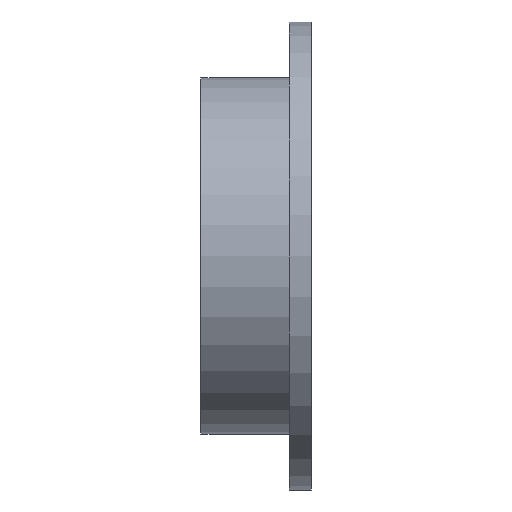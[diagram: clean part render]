
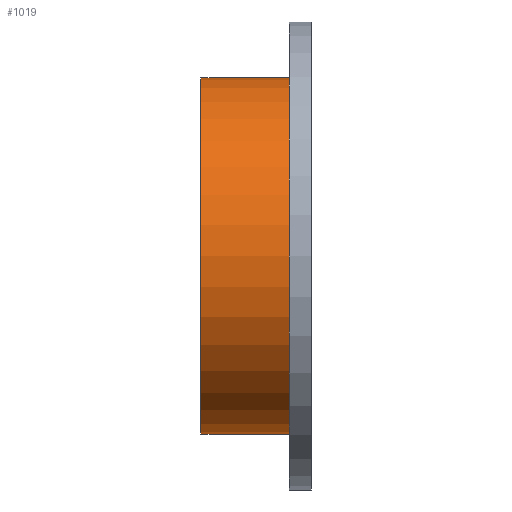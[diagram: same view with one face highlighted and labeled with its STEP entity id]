
A CAD part, left-side view. The second image highlights one B-rep face of the part: STEP entity #1019.
In plain terms, the highlighted cylindrical face has radius 161.95 mm (diameter 323.9 mm), a partial arc.
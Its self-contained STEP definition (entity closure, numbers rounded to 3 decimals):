
#25 = AXIS2_PLACEMENT_3D ( 'NONE', #185, #1224, #173 ) ;
#73 = DIRECTION ( 'NONE',  ( 0., -1., 0. ) ) ;
#96 = DIRECTION ( 'NONE',  ( 0., -1., 0. ) ) ;
#173 = DIRECTION ( 'NONE',  ( 0., 0., -1. ) ) ;
#185 = CARTESIAN_POINT ( 'NONE',  ( 0., 0., 0. ) ) ;
#210 = AXIS2_PLACEMENT_3D ( 'NONE', #1139, #630, #1044 ) ;
#261 = FACE_OUTER_BOUND ( 'NONE', #958, .T. ) ;
#276 = ORIENTED_EDGE ( 'NONE', *, *, #745, .T. ) ;
#307 = EDGE_CURVE ( 'NONE', #975, #1230, #638, .T. ) ;
#456 = CARTESIAN_POINT ( 'NONE',  ( 0., 14., 161.95 ) ) ;
#509 = CARTESIAN_POINT ( 'NONE',  ( 0., 100., 161.95 ) ) ;
#592 = CYLINDRICAL_SURFACE ( 'NONE', #25, 161.95 ) ;
#630 = DIRECTION ( 'NONE',  ( 0., -1., 0. ) ) ;
#638 = CIRCLE ( 'NONE', #210, 161.95 ) ;
#644 = DIRECTION ( 'NONE',  ( 0., -1., 0. ) ) ;
#655 = CARTESIAN_POINT ( 'NONE',  ( 0., 100., -161.95 ) ) ;
#745 = EDGE_CURVE ( 'NONE', #1230, #1114, #1161, .T. ) ;
#825 = CIRCLE ( 'NONE', #1018, 161.95 ) ;
#869 = EDGE_CURVE ( 'NONE', #975, #910, #1275, .T. ) ;
#910 = VERTEX_POINT ( 'NONE', #456 ) ;
#942 = ORIENTED_EDGE ( 'NONE', *, *, #869, .F. ) ;
#958 = EDGE_LOOP ( 'NONE', ( #942, #1168, #276, #1216 ) ) ;
#975 = VERTEX_POINT ( 'NONE', #509 ) ;
#1010 = EDGE_CURVE ( 'NONE', #910, #1114, #825, .T. ) ;
#1011 = CARTESIAN_POINT ( 'NONE',  ( 0., 14., 0. ) ) ;
#1018 = AXIS2_PLACEMENT_3D ( 'NONE', #1011, #73, #1334 ) ;
#1019 = ADVANCED_FACE ( 'NONE', ( #261 ), #592, .T. ) ;
#1044 = DIRECTION ( 'NONE',  ( 0., 0., -1. ) ) ;
#1089 = VECTOR ( 'NONE', #644, 1000. ) ;
#1114 = VERTEX_POINT ( 'NONE', #1238 ) ;
#1135 = CARTESIAN_POINT ( 'NONE',  ( 0., 0., 161.95 ) ) ;
#1139 = CARTESIAN_POINT ( 'NONE',  ( 0., 100., 0. ) ) ;
#1148 = VECTOR ( 'NONE', #96, 1000. ) ;
#1161 = LINE ( 'NONE', #1170, #1089 ) ;
#1168 = ORIENTED_EDGE ( 'NONE', *, *, #307, .T. ) ;
#1170 = CARTESIAN_POINT ( 'NONE',  ( 0., 0., -161.95 ) ) ;
#1216 = ORIENTED_EDGE ( 'NONE', *, *, #1010, .F. ) ;
#1224 = DIRECTION ( 'NONE',  ( 0., -1., 0. ) ) ;
#1230 = VERTEX_POINT ( 'NONE', #655 ) ;
#1238 = CARTESIAN_POINT ( 'NONE',  ( 0., 14., -161.95 ) ) ;
#1275 = LINE ( 'NONE', #1135, #1148 ) ;
#1334 = DIRECTION ( 'NONE',  ( 0., 0., -1. ) ) ;
